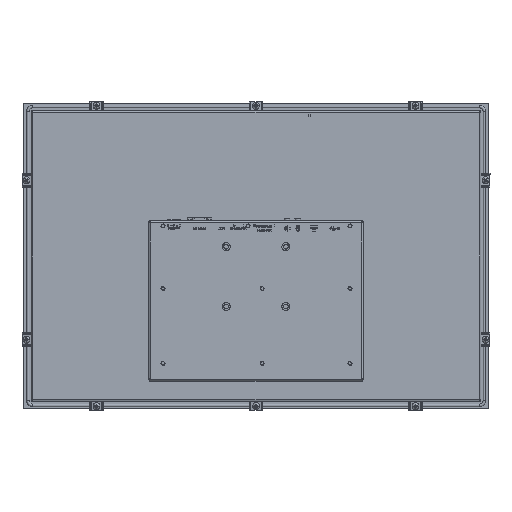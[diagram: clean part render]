
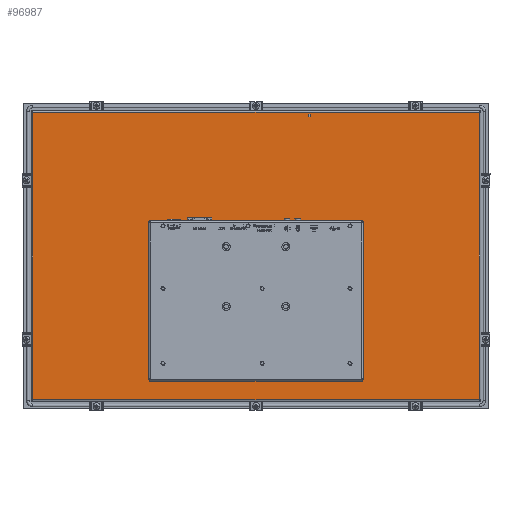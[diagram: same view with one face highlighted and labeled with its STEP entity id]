
A CAD part, front view. The second image highlights one B-rep face of the part: STEP entity #96987.
In plain terms, the highlighted planar face has unit normal (0, -1, 0).
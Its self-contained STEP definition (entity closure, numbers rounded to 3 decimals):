
#626 = EDGE_LOOP ( 'NONE', ( #70793, #112215, #17113, #114457, #108528, #121611, #2501, #99149 ) ) ;
#2191 = DIRECTION ( 'NONE',  ( 0., 0., -1. ) ) ;
#2501 = ORIENTED_EDGE ( 'NONE', *, *, #18040, .T. ) ;
#3015 = VERTEX_POINT ( 'NONE', #40492 ) ;
#3980 = VERTEX_POINT ( 'NONE', #10710 ) ;
#5263 = VECTOR ( 'NONE', #94754, 1000. ) ;
#8137 = LINE ( 'NONE', #127376, #125740 ) ;
#9008 = EDGE_LOOP ( 'NONE', ( #38772, #111876, #25842, #115290, #19861, #69435, #65481, #33534 ) ) ;
#10710 = CARTESIAN_POINT ( 'NONE',  ( 133.25, -11.3, -152.398 ) ) ;
#11334 = CARTESIAN_POINT ( 'NONE',  ( -280., -11.3, 4.952 ) ) ;
#11344 = EDGE_CURVE ( 'NONE', #73067, #109006, #17957, .T. ) ;
#12286 = VECTOR ( 'NONE', #96579, 1000. ) ;
#13039 = CARTESIAN_POINT ( 'NONE',  ( -280., -11.3, -174.627 ) ) ;
#13245 = DIRECTION ( 'NONE',  ( 1., 0., 0. ) ) ;
#13437 = CARTESIAN_POINT ( 'NONE',  ( -135.25, -11.3, 48.102 ) ) ;
#14348 = LINE ( 'NONE', #94759, #62330 ) ;
#15636 = LINE ( 'NONE', #55166, #5263 ) ;
#16234 = VERTEX_POINT ( 'NONE', #45653 ) ;
#17113 = ORIENTED_EDGE ( 'NONE', *, *, #103927, .T. ) ;
#17495 = EDGE_CURVE ( 'NONE', #109006, #3015, #108685, .T. ) ;
#17879 = VECTOR ( 'NONE', #2191, 1000. ) ;
#17957 = LINE ( 'NONE', #97081, #123131 ) ;
#18040 = EDGE_CURVE ( 'NONE', #41055, #84585, #78584, .T. ) ;
#19861 = ORIENTED_EDGE ( 'NONE', *, *, #90178, .T. ) ;
#21215 = CARTESIAN_POINT ( 'NONE',  ( 145.3, -11.3, -140.348 ) ) ;
#22903 = LINE ( 'NONE', #120169, #35606 ) ;
#24557 = DIRECTION ( 'NONE',  ( 0., 0., 1. ) ) ;
#25842 = ORIENTED_EDGE ( 'NONE', *, *, #88734, .T. ) ;
#27132 = CARTESIAN_POINT ( 'NONE',  ( -280., -11.3, 4.952 ) ) ;
#28225 = VECTOR ( 'NONE', #24557, 1000. ) ;
#29665 = CARTESIAN_POINT ( 'NONE',  ( 133.25, -11.3, 50.102 ) ) ;
#30682 = DIRECTION ( 'NONE',  ( 0., 0., -1. ) ) ;
#31527 = EDGE_CURVE ( 'NONE', #75285, #3980, #62654, .T. ) ;
#33031 = VERTEX_POINT ( 'NONE', #70727 ) ;
#33534 = ORIENTED_EDGE ( 'NONE', *, *, #82909, .T. ) ;
#34328 = EDGE_CURVE ( 'NONE', #3980, #115259, #97898, .T. ) ;
#34683 = VERTEX_POINT ( 'NONE', #118444 ) ;
#35606 = VECTOR ( 'NONE', #30682, 1000. ) ;
#36977 = EDGE_CURVE ( 'NONE', #84585, #73067, #119478, .T. ) ;
#38642 = CARTESIAN_POINT ( 'NONE',  ( 280., -11.3, 4.952 ) ) ;
#38772 = ORIENTED_EDGE ( 'NONE', *, *, #51599, .T. ) ;
#40367 = VERTEX_POINT ( 'NONE', #93888 ) ;
#40492 = CARTESIAN_POINT ( 'NONE',  ( 135.25, -11.3, 48.102 ) ) ;
#41055 = VERTEX_POINT ( 'NONE', #91675 ) ;
#42254 = CARTESIAN_POINT ( 'NONE',  ( 280., -11.3, 184.531 ) ) ;
#43427 = VERTEX_POINT ( 'NONE', #42254 ) ;
#45653 = CARTESIAN_POINT ( 'NONE',  ( 280., -11.3, 185.502 ) ) ;
#46488 = CARTESIAN_POINT ( 'NONE',  ( 135.25, -11.3, -150.398 ) ) ;
#48949 = LINE ( 'NONE', #11334, #17879 ) ;
#51357 = EDGE_CURVE ( 'NONE', #34683, #118106, #8137, .T. ) ;
#51599 = EDGE_CURVE ( 'NONE', #33031, #102442, #82599, .T. ) ;
#52729 = FACE_BOUND ( 'NONE', #626, .T. ) ;
#52945 = DIRECTION ( 'NONE',  ( -0.707, 0., -0.707 ) ) ;
#54122 = VERTEX_POINT ( 'NONE', #13039 ) ;
#55166 = CARTESIAN_POINT ( 'NONE',  ( -145.3, -11.3, -140.348 ) ) ;
#58138 = EDGE_CURVE ( 'NONE', #43427, #16234, #14348, .T. ) ;
#59686 = VECTOR ( 'NONE', #69064, 1000. ) ;
#61838 = DIRECTION ( 'NONE',  ( -1., 0., 0. ) ) ;
#62330 = VECTOR ( 'NONE', #93434, 1000. ) ;
#62654 = LINE ( 'NONE', #21215, #87630 ) ;
#63774 = VECTOR ( 'NONE', #104837, 1000. ) ;
#65036 = CARTESIAN_POINT ( 'NONE',  ( 0., -11.3, -175.598 ) ) ;
#65481 = ORIENTED_EDGE ( 'NONE', *, *, #116430, .T. ) ;
#66115 = VECTOR ( 'NONE', #118369, 1000. ) ;
#68017 = CARTESIAN_POINT ( 'NONE',  ( -133.25, -11.3, 50.102 ) ) ;
#69064 = DIRECTION ( 'NONE',  ( -1., 0., 0. ) ) ;
#69435 = ORIENTED_EDGE ( 'NONE', *, *, #51357, .T. ) ;
#70212 = DIRECTION ( 'NONE',  ( 0.707, 0., 0.707 ) ) ;
#70727 = CARTESIAN_POINT ( 'NONE',  ( -280., -11.3, -175.598 ) ) ;
#70793 = ORIENTED_EDGE ( 'NONE', *, *, #11344, .T. ) ;
#72457 = CARTESIAN_POINT ( 'NONE',  ( 280., -11.3, -175.598 ) ) ;
#73067 = VERTEX_POINT ( 'NONE', #68017 ) ;
#73985 = VECTOR ( 'NONE', #13245, 1000. ) ;
#75285 = VERTEX_POINT ( 'NONE', #46488 ) ;
#76339 = CARTESIAN_POINT ( 'NONE',  ( -133.25, -11.3, -152.398 ) ) ;
#78584 = LINE ( 'NONE', #88338, #122131 ) ;
#78739 = DIRECTION ( 'NONE',  ( 0., 0., -1. ) ) ;
#80004 = PLANE ( 'NONE',  #110555 ) ;
#80781 = VECTOR ( 'NONE', #116083, 1000. ) ;
#81601 = VECTOR ( 'NONE', #70212, 1000. ) ;
#81948 = EDGE_CURVE ( 'NONE', #102442, #40367, #127424, .T. ) ;
#82292 = LINE ( 'NONE', #121198, #28225 ) ;
#82599 = LINE ( 'NONE', #65036, #73985 ) ;
#82909 = EDGE_CURVE ( 'NONE', #54122, #33031, #93995, .T. ) ;
#84585 = VERTEX_POINT ( 'NONE', #13437 ) ;
#87630 = VECTOR ( 'NONE', #52945, 1000. ) ;
#88338 = CARTESIAN_POINT ( 'NONE',  ( -135.25, -11.3, -152.398 ) ) ;
#88560 = CARTESIAN_POINT ( 'NONE',  ( 0., -11.3, 185.502 ) ) ;
#88734 = EDGE_CURVE ( 'NONE', #40367, #43427, #82292, .T. ) ;
#89027 = CARTESIAN_POINT ( 'NONE',  ( -89.2, -11.3, 94.152 ) ) ;
#90178 = EDGE_CURVE ( 'NONE', #16234, #34683, #117727, .T. ) ;
#91675 = CARTESIAN_POINT ( 'NONE',  ( -135.25, -11.3, -150.398 ) ) ;
#93434 = DIRECTION ( 'NONE',  ( 0., 0., 1. ) ) ;
#93888 = CARTESIAN_POINT ( 'NONE',  ( 280., -11.3, -174.627 ) ) ;
#93995 = LINE ( 'NONE', #27132, #12286 ) ;
#94754 = DIRECTION ( 'NONE',  ( -0.707, 0., 0.707 ) ) ;
#94759 = CARTESIAN_POINT ( 'NONE',  ( 280., -11.3, 4.952 ) ) ;
#96579 = DIRECTION ( 'NONE',  ( 0., 0., -1. ) ) ;
#96987 = ADVANCED_FACE ( 'NONE', ( #120825, #52729 ), #80004, .F. ) ;
#97081 = CARTESIAN_POINT ( 'NONE',  ( -135.25, -11.3, 50.102 ) ) ;
#97898 = LINE ( 'NONE', #105719, #80781 ) ;
#98299 = CARTESIAN_POINT ( 'NONE',  ( 89.2, -11.3, 94.152 ) ) ;
#98317 = EDGE_CURVE ( 'NONE', #115259, #41055, #15636, .T. ) ;
#98713 = DIRECTION ( 'NONE',  ( 0., 0., 1. ) ) ;
#99149 = ORIENTED_EDGE ( 'NONE', *, *, #36977, .T. ) ;
#100122 = DIRECTION ( 'NONE',  ( 0., 1., 0. ) ) ;
#100259 = DIRECTION ( 'NONE',  ( 1., 0., 0. ) ) ;
#102442 = VERTEX_POINT ( 'NONE', #72457 ) ;
#103346 = CARTESIAN_POINT ( 'NONE',  ( -280., -11.3, 184.531 ) ) ;
#103927 = EDGE_CURVE ( 'NONE', #3015, #75285, #22903, .T. ) ;
#104837 = DIRECTION ( 'NONE',  ( 0., 0., 1. ) ) ;
#105719 = CARTESIAN_POINT ( 'NONE',  ( -135.25, -11.3, -152.398 ) ) ;
#108528 = ORIENTED_EDGE ( 'NONE', *, *, #34328, .T. ) ;
#108685 = LINE ( 'NONE', #98299, #66115 ) ;
#109006 = VERTEX_POINT ( 'NONE', #29665 ) ;
#110555 = AXIS2_PLACEMENT_3D ( 'NONE', #111154, #100122, #61838 ) ;
#111154 = CARTESIAN_POINT ( 'NONE',  ( 0., -11.3, 4.952 ) ) ;
#111876 = ORIENTED_EDGE ( 'NONE', *, *, #81948, .T. ) ;
#112215 = ORIENTED_EDGE ( 'NONE', *, *, #17495, .T. ) ;
#114457 = ORIENTED_EDGE ( 'NONE', *, *, #31527, .T. ) ;
#115259 = VERTEX_POINT ( 'NONE', #76339 ) ;
#115290 = ORIENTED_EDGE ( 'NONE', *, *, #58138, .T. ) ;
#116083 = DIRECTION ( 'NONE',  ( -1., 0., 0. ) ) ;
#116430 = EDGE_CURVE ( 'NONE', #118106, #54122, #48949, .T. ) ;
#117727 = LINE ( 'NONE', #88560, #59686 ) ;
#118106 = VERTEX_POINT ( 'NONE', #103346 ) ;
#118369 = DIRECTION ( 'NONE',  ( 0.707, 0., -0.707 ) ) ;
#118444 = CARTESIAN_POINT ( 'NONE',  ( -280., -11.3, 185.502 ) ) ;
#119478 = LINE ( 'NONE', #89027, #81601 ) ;
#120169 = CARTESIAN_POINT ( 'NONE',  ( 135.25, -11.3, -152.398 ) ) ;
#120825 = FACE_OUTER_BOUND ( 'NONE', #9008, .T. ) ;
#121198 = CARTESIAN_POINT ( 'NONE',  ( 280., -11.3, 4.952 ) ) ;
#121611 = ORIENTED_EDGE ( 'NONE', *, *, #98317, .T. ) ;
#122131 = VECTOR ( 'NONE', #98713, 1000. ) ;
#123131 = VECTOR ( 'NONE', #100259, 1000. ) ;
#125740 = VECTOR ( 'NONE', #78739, 1000. ) ;
#127376 = CARTESIAN_POINT ( 'NONE',  ( -280., -11.3, 4.952 ) ) ;
#127424 = LINE ( 'NONE', #38642, #63774 ) ;
